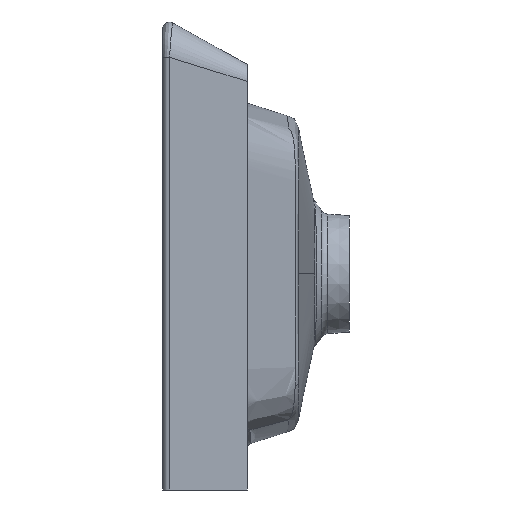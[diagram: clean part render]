
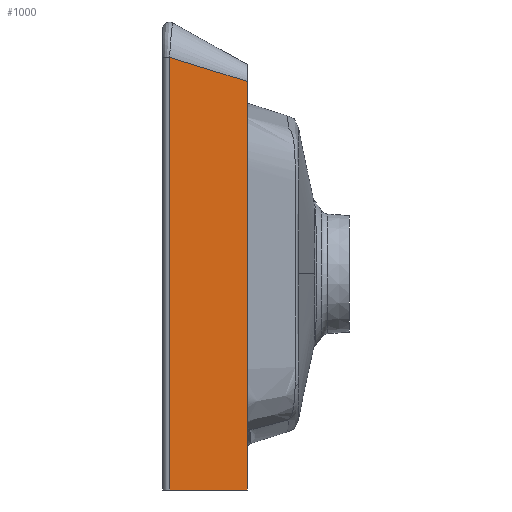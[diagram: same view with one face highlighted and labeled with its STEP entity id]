
A CAD part, left-side view. The second image highlights one B-rep face of the part: STEP entity #1000.
In plain terms, the highlighted planar face has unit normal (-1, -0.02, 0).
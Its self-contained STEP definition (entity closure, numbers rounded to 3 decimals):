
#293 = ORIENTED_EDGE ( 'NONE', *, *, #17378, .T. ) ;
#428 = CARTESIAN_POINT ( 'NONE',  ( -183., -25., 121.75 ) ) ;
#763 = ORIENTED_EDGE ( 'NONE', *, *, #18216, .T. ) ;
#830 = DIRECTION ( 'NONE',  ( 0.02, -1., 0. ) ) ;
#1000 = ADVANCED_FACE ( 'NONE', ( #21634 ), #25845, .T. ) ;
#2687 = LINE ( 'NONE', #25416, #18819 ) ;
#3236 = DIRECTION ( 'NONE',  ( 0.02, -1., 0. ) ) ;
#4277 = CARTESIAN_POINT ( 'NONE',  ( -183.418, -4.08, 128.235 ) ) ;
#4360 = CARTESIAN_POINT ( 'NONE',  ( -183.5, 0., -128. ) ) ;
#4426 = VERTEX_POINT ( 'NONE', #23287 ) ;
#4998 = DIRECTION ( 'NONE',  ( -1., -0.02, 0. ) ) ;
#5938 = VECTOR ( 'NONE', #10451, 1000. ) ;
#6508 = EDGE_LOOP ( 'NONE', ( #22891, #763, #11882, #293 ) ) ;
#6726 = CARTESIAN_POINT ( 'NONE',  ( -182.5, -50., -128. ) ) ;
#6842 = VERTEX_POINT ( 'NONE', #15476 ) ;
#6870 = DIRECTION ( 'NONE',  ( 0., 0., 1. ) ) ;
#7271 = EDGE_CURVE ( 'NONE', #4426, #18084, #17071, .T. ) ;
#8515 = AXIS2_PLACEMENT_3D ( 'NONE', #23528, #4998, #3236 ) ;
#8863 = LINE ( 'NONE', #13065, #17131 ) ;
#10451 = DIRECTION ( 'NONE',  ( -0.019, 0.955, 0.296 ) ) ;
#11398 = VECTOR ( 'NONE', #830, 1000. ) ;
#11882 = ORIENTED_EDGE ( 'NONE', *, *, #12845, .T. ) ;
#12845 = EDGE_CURVE ( 'NONE', #6842, #13816, #15306, .T. ) ;
#13065 = CARTESIAN_POINT ( 'NONE',  ( -183.418, -4.08, 0. ) ) ;
#13816 = VERTEX_POINT ( 'NONE', #6726 ) ;
#15306 = LINE ( 'NONE', #4360, #11398 ) ;
#15476 = CARTESIAN_POINT ( 'NONE',  ( -183.418, -4.08, -128. ) ) ;
#17071 = LINE ( 'NONE', #428, #5938 ) ;
#17131 = VECTOR ( 'NONE', #19417, 1000. ) ;
#17378 = EDGE_CURVE ( 'NONE', #13816, #4426, #2687, .T. ) ;
#18084 = VERTEX_POINT ( 'NONE', #4277 ) ;
#18216 = EDGE_CURVE ( 'NONE', #18084, #6842, #8863, .T. ) ;
#18819 = VECTOR ( 'NONE', #6870, 1000. ) ;
#19417 = DIRECTION ( 'NONE',  ( 0., 0., -1. ) ) ;
#21634 = FACE_OUTER_BOUND ( 'NONE', #6508, .T. ) ;
#22891 = ORIENTED_EDGE ( 'NONE', *, *, #7271, .T. ) ;
#23287 = CARTESIAN_POINT ( 'NONE',  ( -182.5, -50., 114. ) ) ;
#23528 = CARTESIAN_POINT ( 'NONE',  ( -183.427, -3.669, 0. ) ) ;
#25416 = CARTESIAN_POINT ( 'NONE',  ( -182.5, -50., -128. ) ) ;
#25845 = PLANE ( 'NONE',  #8515 ) ;
